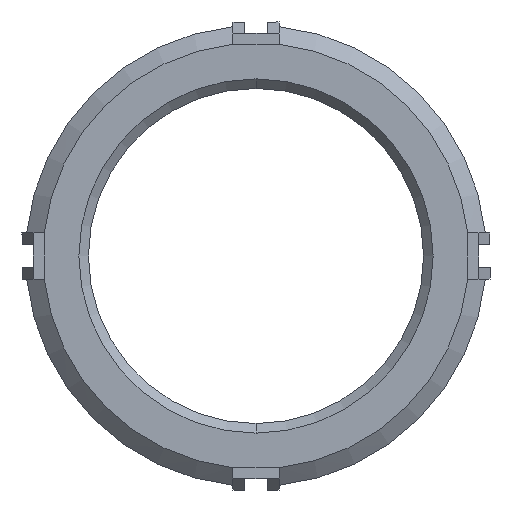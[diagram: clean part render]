
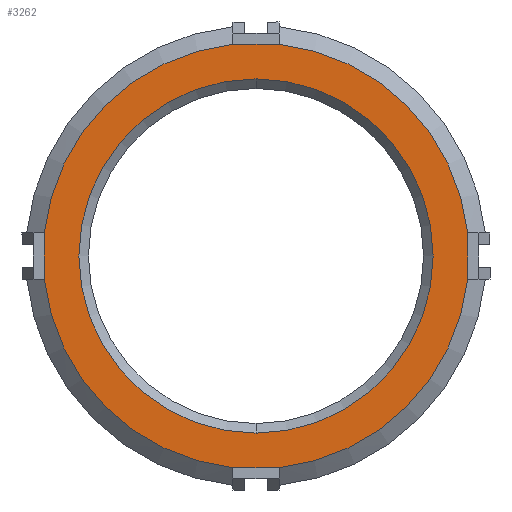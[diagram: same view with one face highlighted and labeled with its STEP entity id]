
A CAD part, front view. The second image highlights one B-rep face of the part: STEP entity #3262.
In plain terms, the highlighted planar face has unit normal (0, -1, 0).
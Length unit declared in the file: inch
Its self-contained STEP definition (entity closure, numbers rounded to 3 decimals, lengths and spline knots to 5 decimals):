
#36 = VERTEX_POINT ( 'NONE', #3524 ) ;
#39 = VECTOR ( 'NONE', #6254, 39.37008 ) ;
#375 = DIRECTION ( 'NONE',  ( 0., 1., 0. ) ) ;
#545 = VERTEX_POINT ( 'NONE', #7617 ) ;
#670 = CIRCLE ( 'NONE', #2446, 0.63546 ) ;
#721 = CARTESIAN_POINT ( 'NONE',  ( 0.63173, 0., -0.06875 ) ) ;
#728 = ORIENTED_EDGE ( 'NONE', *, *, #1199, .T. ) ;
#839 = CIRCLE ( 'NONE', #2746, 0.63546 ) ;
#939 = CARTESIAN_POINT ( 'NONE',  ( 0.06875, 0., 0.63173 ) ) ;
#1013 = FACE_OUTER_BOUND ( 'NONE', #5970, .T. ) ;
#1062 = DIRECTION ( 'NONE',  ( 0., -1., 0. ) ) ;
#1102 = CIRCLE ( 'NONE', #4088, 0.63546 ) ;
#1199 = EDGE_CURVE ( 'NONE', #2319, #3209, #5839, .T. ) ;
#1212 = AXIS2_PLACEMENT_3D ( 'NONE', #1689, #4174, #2914 ) ;
#1381 = CARTESIAN_POINT ( 'NONE',  ( 0., 0., 0. ) ) ;
#1404 = EDGE_CURVE ( 'NONE', #1559, #4381, #6899, .T. ) ;
#1466 = VERTEX_POINT ( 'NONE', #6517 ) ;
#1559 = VERTEX_POINT ( 'NONE', #7284 ) ;
#1626 = EDGE_CURVE ( 'NONE', #1559, #545, #670, .T. ) ;
#1689 = CARTESIAN_POINT ( 'NONE',  ( 0., 0., 0. ) ) ;
#2067 = CIRCLE ( 'NONE', #7922, 0.52857 ) ;
#2228 = CARTESIAN_POINT ( 'NONE',  ( -0.06875, 0., -0.63173 ) ) ;
#2319 = VERTEX_POINT ( 'NONE', #5478 ) ;
#2370 = ORIENTED_EDGE ( 'NONE', *, *, #3888, .T. ) ;
#2446 = AXIS2_PLACEMENT_3D ( 'NONE', #7413, #4081, #8063 ) ;
#2746 = AXIS2_PLACEMENT_3D ( 'NONE', #1381, #6575, #3377 ) ;
#2883 = CARTESIAN_POINT ( 'NONE',  ( 0., 0., 0. ) ) ;
#2914 = DIRECTION ( 'NONE',  ( 0., 0., 1. ) ) ;
#2981 = LINE ( 'NONE', #2228, #39 ) ;
#2986 = VECTOR ( 'NONE', #6938, 39.37008 ) ;
#3061 = PLANE ( 'NONE',  #7645 ) ;
#3156 = AXIS2_PLACEMENT_3D ( 'NONE', #6178, #1062, #6891 ) ;
#3209 = VERTEX_POINT ( 'NONE', #4716 ) ;
#3262 = ADVANCED_FACE ( 'NONE', ( #3644, #1013 ), #3061, .F. ) ;
#3267 = CARTESIAN_POINT ( 'NONE',  ( 0.06875, 0., -0.63173 ) ) ;
#3377 = DIRECTION ( 'NONE',  ( 0., 0., -1. ) ) ;
#3385 = DIRECTION ( 'NONE',  ( 0., -1., 0. ) ) ;
#3522 = EDGE_CURVE ( 'NONE', #5122, #4381, #1102, .T. ) ;
#3524 = CARTESIAN_POINT ( 'NONE',  ( -0.06875, 0., -0.63173 ) ) ;
#3603 = DIRECTION ( 'NONE',  ( 0., 1., 0. ) ) ;
#3644 = FACE_BOUND ( 'NONE', #5120, .T. ) ;
#3761 = VECTOR ( 'NONE', #5619, 39.37008 ) ;
#3888 = EDGE_CURVE ( 'NONE', #1466, #36, #839, .T. ) ;
#4081 = DIRECTION ( 'NONE',  ( 0., -1., 0. ) ) ;
#4088 = AXIS2_PLACEMENT_3D ( 'NONE', #2883, #3385, #5480 ) ;
#4153 = DIRECTION ( 'NONE',  ( 0., 0., 1. ) ) ;
#4174 = DIRECTION ( 'NONE',  ( 0., 1., 0. ) ) ;
#4243 = CARTESIAN_POINT ( 'NONE',  ( 0., 0., 0. ) ) ;
#4320 = EDGE_CURVE ( 'NONE', #6823, #5374, #7097, .T. ) ;
#4341 = CARTESIAN_POINT ( 'NONE',  ( 0.06875, 0., 0.63173 ) ) ;
#4381 = VERTEX_POINT ( 'NONE', #939 ) ;
#4401 = ORIENTED_EDGE ( 'NONE', *, *, #1404, .F. ) ;
#4716 = CARTESIAN_POINT ( 'NONE',  ( 0., 0., -0.52857 ) ) ;
#4952 = ORIENTED_EDGE ( 'NONE', *, *, #5133, .F. ) ;
#4975 = DIRECTION ( 'NONE',  ( 0., 0., 1. ) ) ;
#5120 = EDGE_LOOP ( 'NONE', ( #7943, #728 ) ) ;
#5122 = VERTEX_POINT ( 'NONE', #6214 ) ;
#5133 = EDGE_CURVE ( 'NONE', #6823, #36, #2981, .T. ) ;
#5374 = VERTEX_POINT ( 'NONE', #721 ) ;
#5478 = CARTESIAN_POINT ( 'NONE',  ( 0., 0., 0.52857 ) ) ;
#5480 = DIRECTION ( 'NONE',  ( 0., 0., -1. ) ) ;
#5534 = EDGE_CURVE ( 'NONE', #3209, #2319, #2067, .T. ) ;
#5547 = LINE ( 'NONE', #7297, #7664 ) ;
#5619 = DIRECTION ( 'NONE',  ( 0., 0., -1. ) ) ;
#5839 = CIRCLE ( 'NONE', #1212, 0.52857 ) ;
#5970 = EDGE_LOOP ( 'NONE', ( #6263, #7699, #2370, #4952, #8411, #5999, #8364, #4401 ) ) ;
#5999 = ORIENTED_EDGE ( 'NONE', *, *, #8347, .F. ) ;
#6178 = CARTESIAN_POINT ( 'NONE',  ( 0., 0., 0. ) ) ;
#6214 = CARTESIAN_POINT ( 'NONE',  ( 0.63173, 0., 0.06875 ) ) ;
#6254 = DIRECTION ( 'NONE',  ( -1., 0., 0. ) ) ;
#6263 = ORIENTED_EDGE ( 'NONE', *, *, #1626, .T. ) ;
#6517 = CARTESIAN_POINT ( 'NONE',  ( -0.63173, 0., -0.06875 ) ) ;
#6575 = DIRECTION ( 'NONE',  ( 0., -1., 0. ) ) ;
#6823 = VERTEX_POINT ( 'NONE', #3267 ) ;
#6891 = DIRECTION ( 'NONE',  ( 0., 0., -1. ) ) ;
#6899 = LINE ( 'NONE', #4341, #2986 ) ;
#6938 = DIRECTION ( 'NONE',  ( 1., 0., 0. ) ) ;
#7097 = CIRCLE ( 'NONE', #3156, 0.63546 ) ;
#7284 = CARTESIAN_POINT ( 'NONE',  ( -0.06875, 0., 0.63173 ) ) ;
#7297 = CARTESIAN_POINT ( 'NONE',  ( -0.63173, 0., 0.06875 ) ) ;
#7304 = EDGE_CURVE ( 'NONE', #1466, #545, #5547, .T. ) ;
#7413 = CARTESIAN_POINT ( 'NONE',  ( 0., 0., 0. ) ) ;
#7547 = LINE ( 'NONE', #8058, #3761 ) ;
#7617 = CARTESIAN_POINT ( 'NONE',  ( -0.63173, 0., 0.06875 ) ) ;
#7645 = AXIS2_PLACEMENT_3D ( 'NONE', #8353, #3603, #4975 ) ;
#7664 = VECTOR ( 'NONE', #8162, 39.37008 ) ;
#7699 = ORIENTED_EDGE ( 'NONE', *, *, #7304, .F. ) ;
#7922 = AXIS2_PLACEMENT_3D ( 'NONE', #4243, #375, #4153 ) ;
#7943 = ORIENTED_EDGE ( 'NONE', *, *, #5534, .T. ) ;
#8058 = CARTESIAN_POINT ( 'NONE',  ( 0.63173, 0., -0.06875 ) ) ;
#8063 = DIRECTION ( 'NONE',  ( 0., 0., -1. ) ) ;
#8162 = DIRECTION ( 'NONE',  ( 0., 0., 1. ) ) ;
#8347 = EDGE_CURVE ( 'NONE', #5122, #5374, #7547, .T. ) ;
#8353 = CARTESIAN_POINT ( 'NONE',  ( 0., 0., 0. ) ) ;
#8364 = ORIENTED_EDGE ( 'NONE', *, *, #3522, .T. ) ;
#8411 = ORIENTED_EDGE ( 'NONE', *, *, #4320, .T. ) ;
